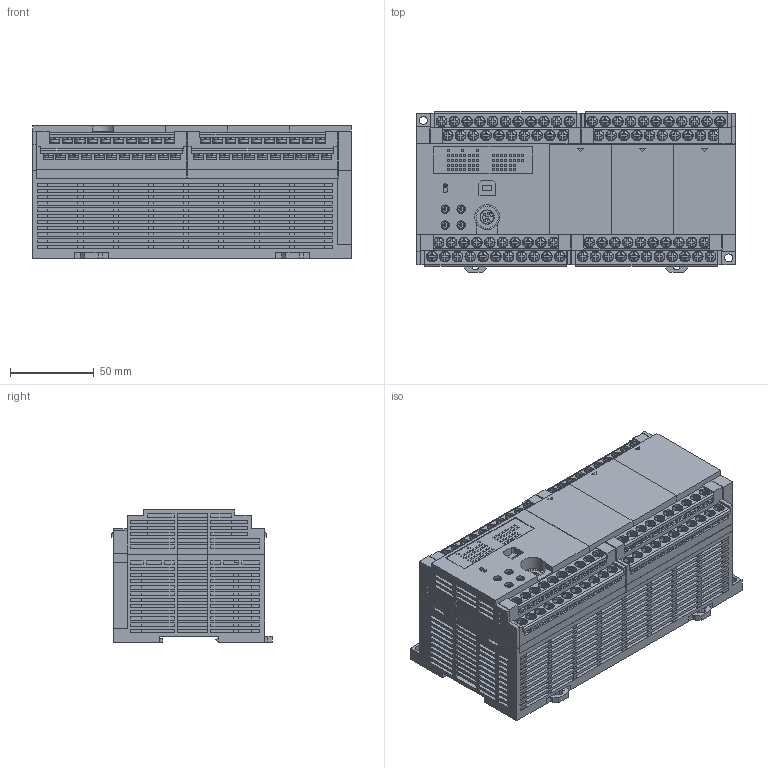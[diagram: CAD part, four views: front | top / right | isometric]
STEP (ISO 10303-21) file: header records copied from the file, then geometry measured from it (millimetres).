
FILE_DESCRIPTION (( 'STEP AP214' ), '1' );
FILE_NAME ('afpx-c60.step', '2009-08-28T01:48:55', ( '' ), ( 'PanasonicElectricWorks' ), '', '', '' );
FILE_SCHEMA (( 'AUTOMOTIVE_DESIGN' ));
Length unit declared in the file: millimetre
Products named in the file (1): afpx-c60
Bounding box: 190 x 95.6 x 79 mm (x, y, z)
Volume: 1171691.7 mm3; surface area: 152987.8 mm2
Topology: 4 solids, 4 shells, 5449 faces, 15260 edges, 9945 vertices
Faces by surface type: plane 4826, cylinder 455, torus 168
Entity records: 237325 total; most frequent: CARTESIAN_POINT 36609, ORIENTED_EDGE 30520, DIRECTION 27298, EDGE_CURVE 15260, VECTOR 12278, LINE 12278, VERTEX_POINT 9945, AXIS2_PLACEMENT_3D 7510
